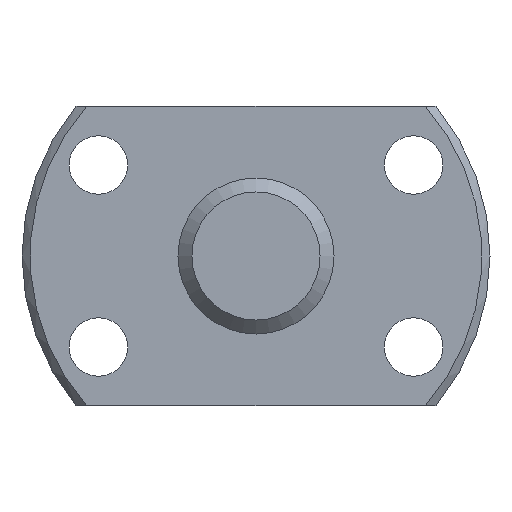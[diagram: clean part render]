
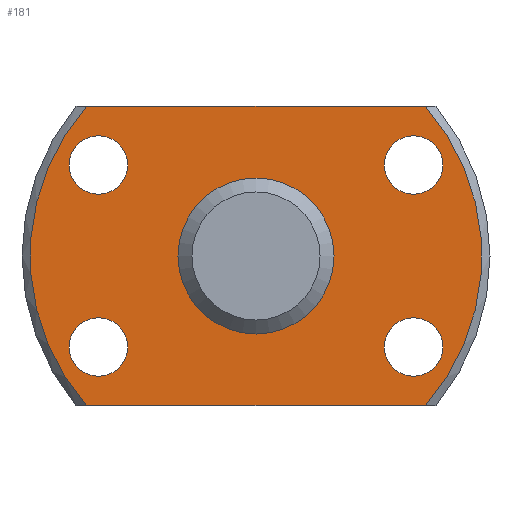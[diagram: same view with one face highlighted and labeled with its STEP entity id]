
A CAD part, left-side view. The second image highlights one B-rep face of the part: STEP entity #181.
In plain terms, the highlighted planar face has unit normal (-1, 0, 0).
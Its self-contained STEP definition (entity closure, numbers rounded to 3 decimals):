
#181 = ADVANCED_FACE( '', ( #229, #230, #231, #232, #233, #234 ), #235, .T. );
#229 = FACE_BOUND( '', #303, .T. );
#230 = FACE_OUTER_BOUND( '', #304, .T. );
#231 = FACE_BOUND( '', #305, .T. );
#232 = FACE_BOUND( '', #306, .T. );
#233 = FACE_BOUND( '', #307, .T. );
#234 = FACE_BOUND( '', #308, .T. );
#235 = PLANE( '', #309 );
#303 = EDGE_LOOP( '', ( #422 ) );
#304 = EDGE_LOOP( '', ( #423, #424, #425, #426 ) );
#305 = EDGE_LOOP( '', ( #427 ) );
#306 = EDGE_LOOP( '', ( #428 ) );
#307 = EDGE_LOOP( '', ( #429 ) );
#308 = EDGE_LOOP( '', ( #430 ) );
#309 = AXIS2_PLACEMENT_3D( '', #431, #432, #433 );
#422 = ORIENTED_EDGE( '', *, *, #534, .T. );
#423 = ORIENTED_EDGE( '', *, *, #535, .F. );
#424 = ORIENTED_EDGE( '', *, *, #536, .F. );
#425 = ORIENTED_EDGE( '', *, *, #511, .F. );
#426 = ORIENTED_EDGE( '', *, *, #532, .F. );
#427 = ORIENTED_EDGE( '', *, *, #537, .T. );
#428 = ORIENTED_EDGE( '', *, *, #538, .T. );
#429 = ORIENTED_EDGE( '', *, *, #539, .T. );
#430 = ORIENTED_EDGE( '', *, *, #540, .T. );
#431 = CARTESIAN_POINT( '', ( 0., 17.375, 0. ) );
#432 = DIRECTION( '', ( -1., 0., 0. ) );
#433 = DIRECTION( '', ( 0., 0., 1. ) );
#511 = EDGE_CURVE( '', #560, #562, #563, .T. );
#532 = EDGE_CURVE( '', #597, #560, #600, .T. );
#534 = EDGE_CURVE( '', #602, #602, #603, .T. );
#535 = EDGE_CURVE( '', #604, #597, #605, .T. );
#536 = EDGE_CURVE( '', #562, #604, #606, .T. );
#537 = EDGE_CURVE( '', #607, #607, #608, .T. );
#538 = EDGE_CURVE( '', #609, #609, #610, .T. );
#539 = EDGE_CURVE( '', #611, #611, #612, .T. );
#540 = EDGE_CURVE( '', #613, #613, #614, .T. );
#560 = VERTEX_POINT( '', #642 );
#562 = VERTEX_POINT( '', #647 );
#563 = LINE( '', #648, #649 );
#597 = VERTEX_POINT( '', #699 );
#600 = CIRCLE( '', #705, 17.375 );
#602 = VERTEX_POINT( '', #707 );
#603 = CIRCLE( '', #708, 6. );
#604 = VERTEX_POINT( '', #709 );
#605 = LINE( '', #710, #711 );
#606 = CIRCLE( '', #712, 17.375 );
#607 = VERTEX_POINT( '', #713 );
#608 = CIRCLE( '', #714, 2.25 );
#609 = VERTEX_POINT( '', #715 );
#610 = CIRCLE( '', #716, 2.25 );
#611 = VERTEX_POINT( '', #717 );
#612 = CIRCLE( '', #718, 2.25 );
#613 = VERTEX_POINT( '', #719 );
#614 = CIRCLE( '', #720, 2.25 );
#642 = CARTESIAN_POINT( '', ( 0., -13.025, -11.5 ) );
#647 = CARTESIAN_POINT( '', ( 0., 13.025, -11.5 ) );
#648 = CARTESIAN_POINT( '', ( 0., -18., -11.5 ) );
#649 = VECTOR( '', #748, 1000. );
#699 = CARTESIAN_POINT( '', ( 0., -13.025, 11.5 ) );
#705 = AXIS2_PLACEMENT_3D( '', #786, #787, #788 );
#707 = CARTESIAN_POINT( '', ( 0., 0., -6. ) );
#708 = AXIS2_PLACEMENT_3D( '', #792, #793, #794 );
#709 = CARTESIAN_POINT( '', ( 0., 13.025, 11.5 ) );
#710 = CARTESIAN_POINT( '', ( 0., 18., 11.5 ) );
#711 = VECTOR( '', #795, 1000. );
#712 = AXIS2_PLACEMENT_3D( '', #796, #797, #798 );
#713 = CARTESIAN_POINT( '', ( 0., 12.124, 4.75 ) );
#714 = AXIS2_PLACEMENT_3D( '', #799, #800, #801 );
#715 = CARTESIAN_POINT( '', ( 0., -12.124, 4.75 ) );
#716 = AXIS2_PLACEMENT_3D( '', #802, #803, #804 );
#717 = CARTESIAN_POINT( '', ( 0., -12.124, -9.25 ) );
#718 = AXIS2_PLACEMENT_3D( '', #805, #806, #807 );
#719 = CARTESIAN_POINT( '', ( 0., 12.124, -9.25 ) );
#720 = AXIS2_PLACEMENT_3D( '', #808, #809, #810 );
#748 = DIRECTION( '', ( 0., 1., 0. ) );
#786 = CARTESIAN_POINT( '', ( 0., 0., 0. ) );
#787 = DIRECTION( '', ( 1., 0., 0. ) );
#788 = DIRECTION( '', ( 0., 0., -1. ) );
#792 = CARTESIAN_POINT( '', ( 0., 0., 0. ) );
#793 = DIRECTION( '', ( 1., 0., 0. ) );
#794 = DIRECTION( '', ( 0., 0., -1. ) );
#795 = DIRECTION( '', ( 0., -1., 0. ) );
#796 = CARTESIAN_POINT( '', ( 0., 0., 0. ) );
#797 = DIRECTION( '', ( 1., 0., 0. ) );
#798 = DIRECTION( '', ( 0., 0., -1. ) );
#799 = CARTESIAN_POINT( '', ( 0., 12.124, 7. ) );
#800 = DIRECTION( '', ( 1., 0., 0. ) );
#801 = DIRECTION( '', ( 0., 0., -1. ) );
#802 = CARTESIAN_POINT( '', ( 0., -12.124, 7. ) );
#803 = DIRECTION( '', ( 1., 0., 0. ) );
#804 = DIRECTION( '', ( 0., 0., -1. ) );
#805 = CARTESIAN_POINT( '', ( 0., -12.124, -7. ) );
#806 = DIRECTION( '', ( 1., 0., 0. ) );
#807 = DIRECTION( '', ( 0., 0., -1. ) );
#808 = CARTESIAN_POINT( '', ( 0., 12.124, -7. ) );
#809 = DIRECTION( '', ( 1., 0., 0. ) );
#810 = DIRECTION( '', ( 0., 0., -1. ) );
